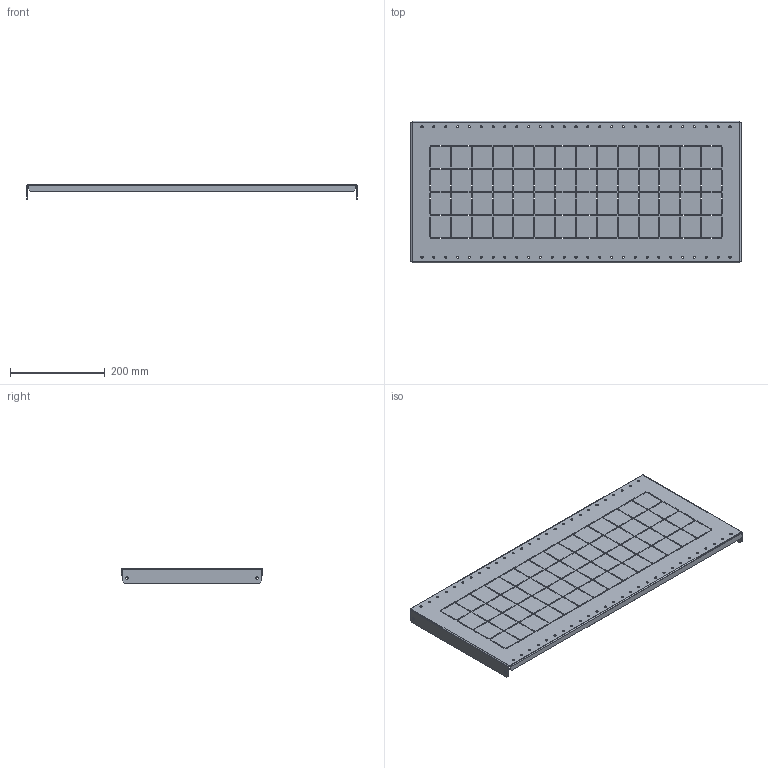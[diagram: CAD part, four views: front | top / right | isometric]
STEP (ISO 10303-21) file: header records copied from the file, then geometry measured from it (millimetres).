
FILE_DESCRIPTION (( 'STEP AP203' ), '1' );
FILE_NAME ('MA1.800.060803.04.01 Ïàíåëè áîêîâûå äëÿ ñåêöèîíèðîâàíèÿ Â300 Ã800 ìì.STEP', '2024-12-02T13:58:12', ( '' ), ( '' ), 'SwSTEP 2.0', 'SolidWorks 2021', '' );
FILE_SCHEMA (( 'CONFIG_CONTROL_DESIGN' ));
Length unit declared in the file: millimetre
Products named in the file (1): MA1.800.060803.04.01 Ïàíåëè áîêîâûå äëÿ ñåêöèîíèðîâàíèÿ Â300 Ã800 ìì
Bounding box: 697 x 299 x 31 mm (x, y, z)
Volume: 344743.4 mm3; surface area: 480872.5 mm2
Topology: 1 solids, 1 shells, 624 faces, 1834 edges, 1212 vertices
Faces by surface type: plane 558, cylinder 66
Full cylindrical faces by diameter (mm): 4.5 x54, 5.5 x4
Entity records: 20933 total; most frequent: CARTESIAN_POINT 3613, ORIENTED_EDGE 3552, DIRECTION 3158, EDGE_CURVE 1776, VECTOR 1644, LINE 1644, VERTEX_POINT 1212, EDGE_LOOP 1058
